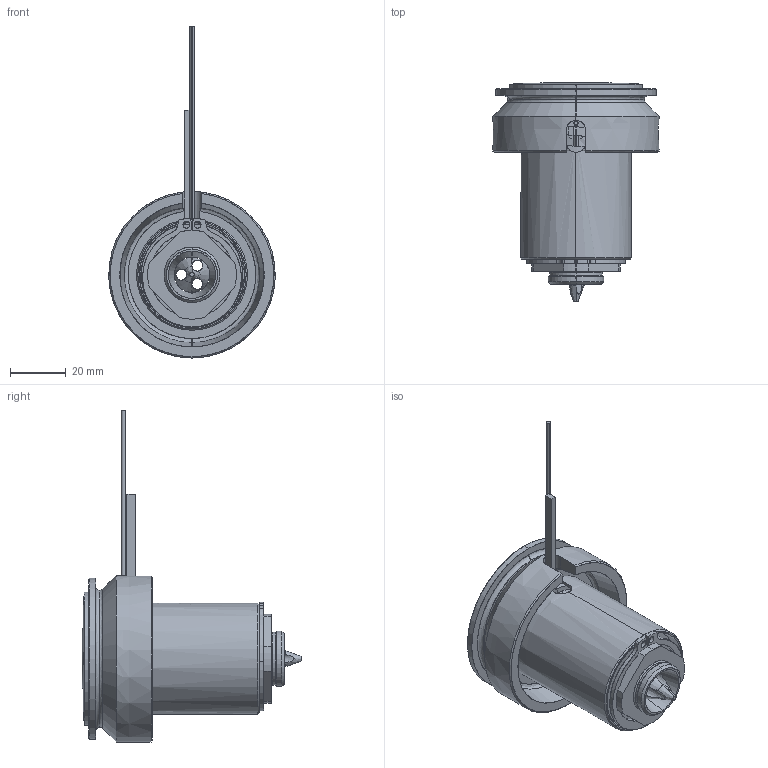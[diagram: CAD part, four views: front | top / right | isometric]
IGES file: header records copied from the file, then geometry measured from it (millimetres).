
Start section: SolidWorks IGES file using analytic representation for surfaces
Global section: file name: C:\Documents and Settings\ws-20\Desktop\TEM\UGEP6002-M-A-1 [Øf-1.6 ØC-17].IGS; native system: SolidWorks 2012; preprocessor: SolidWorks 2012; author: ws-20; date: 120427.094527; units: millimetre
Bounding box: 60 x 79.05 x 119.65 mm (x, y, z)
Surface area: 38709.2 mm2 (no closed solid volume)
Topology: 0 solids, 0 shells, 135 faces, 2576 edges, 2576 vertices
Faces by surface type: revolution 85, bspline 50
